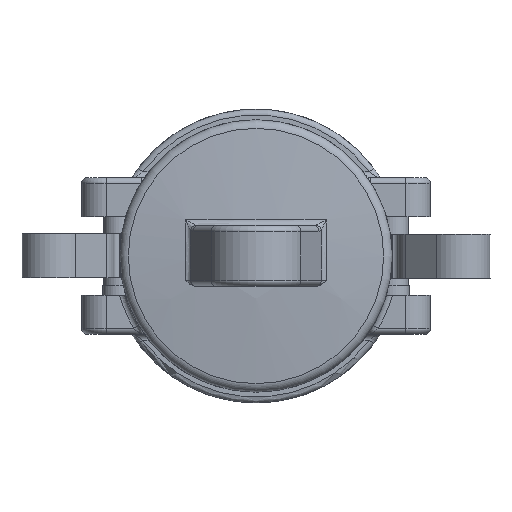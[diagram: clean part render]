
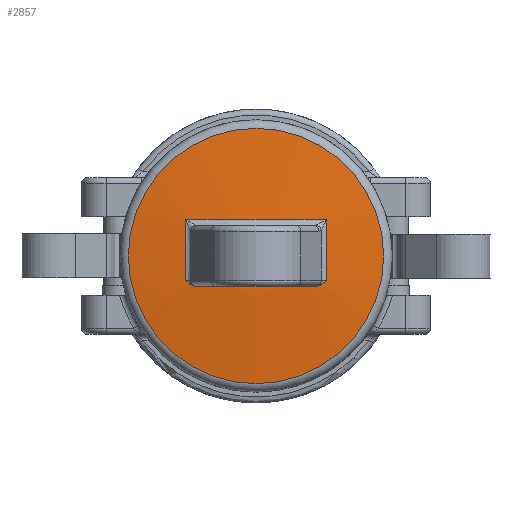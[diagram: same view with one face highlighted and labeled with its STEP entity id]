
A CAD part, left-side view. The second image highlights one B-rep face of the part: STEP entity #2857.
In plain terms, the highlighted spherical face has radius 123.323 mm.
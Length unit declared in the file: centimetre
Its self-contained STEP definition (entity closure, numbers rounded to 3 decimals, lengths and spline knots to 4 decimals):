
#42=SPHERICAL_SURFACE('',#3046,12.3323);
#82=B_SPLINE_CURVE_WITH_KNOTS('',3,(#4413,#4414,#4415,#4416,#4417,#4418,
#4419,#4420,#4421,#4422),.UNSPECIFIED.,.F.,.U.,(4,2,2,2,4),(0.,0.0415,
0.0997,0.1675,0.1682),.UNSPECIFIED.);
#85=B_SPLINE_CURVE_WITH_KNOTS('',3,(#4670,#4671,#4672,#4673,#4674,#4675,
#4676,#4677,#4678,#4679),.UNSPECIFIED.,.F.,.U.,(4,2,2,2,4),(-0.0006,
0.,0.0568,0.1056,0.1403),.UNSPECIFIED.);
#1060=VERTEX_POINT('',#4412);
#1061=VERTEX_POINT('',#4423);
#1066=VERTEX_POINT('',#4669);
#1067=VERTEX_POINT('',#4680);
#1072=VERTEX_POINT('',#4843);
#1078=VERTEX_POINT('',#5094);
#1085=VERTEX_POINT('',#5228);
#1279=CIRCLE('',#3030,10.8923);
#1282=CIRCLE('',#3037,10.8923);
#1283=CIRCLE('',#3039,12.3235);
#1286=CIRCLE('',#3044,1.6553);
#1288=CIRCLE('',#3047,12.326);
#1446=EDGE_CURVE('',#1060,#1061,#82,.F.);
#1453=EDGE_CURVE('',#1066,#1067,#85,.F.);
#1480=EDGE_CURVE('',#1067,#1072,#1279,.T.);
#1485=EDGE_CURVE('',#1078,#1060,#1282,.T.);
#1486=EDGE_CURVE('',#1072,#1078,#1283,.T.);
#1489=EDGE_CURVE('',#1085,#1085,#1286,.T.);
#1491=EDGE_CURVE('',#1066,#1061,#1288,.T.);
#1938=ORIENTED_EDGE('',*,*,#1453,.F.);
#1939=ORIENTED_EDGE('',*,*,#1491,.T.);
#1940=ORIENTED_EDGE('',*,*,#1446,.F.);
#1941=ORIENTED_EDGE('',*,*,#1485,.F.);
#1942=ORIENTED_EDGE('',*,*,#1486,.F.);
#1943=ORIENTED_EDGE('',*,*,#1480,.F.);
#1944=ORIENTED_EDGE('',*,*,#1489,.F.);
#2501=EDGE_LOOP('',(#1938,#1939,#1940,#1941,#1942,#1943));
#2502=EDGE_LOOP('',(#1944));
#2688=FACE_BOUND('',#2501,.T.);
#2689=FACE_BOUND('',#2502,.T.);
#2857=ADVANCED_FACE('',(#2688,#2689),#42,.T.);
#3030=AXIS2_PLACEMENT_3D('',#5210,#3413,#3414);
#3037=AXIS2_PLACEMENT_3D('',#5219,#3426,#3427);
#3039=AXIS2_PLACEMENT_3D('',#5221,#3429,#3430);
#3044=AXIS2_PLACEMENT_3D('',#5227,#3437,#3438);
#3046=AXIS2_PLACEMENT_3D('',#5231,#3441,#3442);
#3047=AXIS2_PLACEMENT_3D('',#5232,#3443,#3444);
#3413=DIRECTION('',(0.403,0.915,0.));
#3414=DIRECTION('',(-9.971,4.385,0.));
#3426=DIRECTION('',(0.403,-0.915,0.));
#3427=DIRECTION('',(-9.971,-4.385,0.));
#3429=DIRECTION('',(0.,0.,-1.));
#3430=DIRECTION('',(-12.323,0.,0.));
#3437=DIRECTION('',(1.,0.,0.));
#3438=DIRECTION('',(0.,0.,1.655));
#3441=DIRECTION('',(0.,0.,1.));
#3442=DIRECTION('',(1.,0.,0.));
#3443=DIRECTION('',(0.,0.,-1.));
#3444=DIRECTION('',(0.,-12.326,0.));
#4412=CARTESIAN_POINT('',(-3.4166,0.9109,-0.3195));
#4413=CARTESIAN_POINT('',(-3.4234,0.7808,-0.3937));
#4414=CARTESIAN_POINT('',(-3.4225,0.7946,-0.3937));
#4415=CARTESIAN_POINT('',(-3.4217,0.8082,-0.3909));
#4416=CARTESIAN_POINT('',(-3.42,0.8395,-0.3793));
#4417=CARTESIAN_POINT('',(-3.4192,0.8552,-0.369));
#4418=CARTESIAN_POINT('',(-3.4178,0.8835,-0.3469));
#4419=CARTESIAN_POINT('',(-3.4172,0.8972,-0.3333));
#4420=CARTESIAN_POINT('',(-3.4166,0.9107,-0.3197));
#4421=CARTESIAN_POINT('',(-3.4166,0.9108,-0.3196));
#4422=CARTESIAN_POINT('',(-3.4166,0.9109,-0.3195));
#4423=CARTESIAN_POINT('',(-3.4234,0.7808,-0.3937));
#4669=CARTESIAN_POINT('',(-3.4234,-0.7808,-0.3937));
#4670=CARTESIAN_POINT('',(-3.4166,-0.9109,-0.3195));
#4671=CARTESIAN_POINT('',(-3.4166,-0.9108,-0.3196));
#4672=CARTESIAN_POINT('',(-3.4166,-0.9107,-0.3197));
#4673=CARTESIAN_POINT('',(-3.4172,-0.8972,-0.3333));
#4674=CARTESIAN_POINT('',(-3.4178,-0.8835,-0.3469));
#4675=CARTESIAN_POINT('',(-3.4192,-0.8552,-0.369));
#4676=CARTESIAN_POINT('',(-3.42,-0.8395,-0.3793));
#4677=CARTESIAN_POINT('',(-3.4217,-0.8082,-0.3909));
#4678=CARTESIAN_POINT('',(-3.4225,-0.7946,-0.3937));
#4679=CARTESIAN_POINT('',(-3.4234,-0.7808,-0.3937));
#4680=CARTESIAN_POINT('',(-3.4166,-0.9109,-0.3195));
#4843=CARTESIAN_POINT('',(-3.4117,-0.9131,0.467));
#5094=CARTESIAN_POINT('',(-3.4117,0.9131,0.467));
#5210=CARTESIAN_POINT('',(6.5498,-5.2939,0.));
#5219=CARTESIAN_POINT('',(6.5498,5.2939,0.));
#5221=CARTESIAN_POINT('',(8.8779,0.,0.467));
#5227=CARTESIAN_POINT('',(-3.3428,0.,0.));
#5228=CARTESIAN_POINT('',(-3.3428,0.,-1.6553));
#5231=CARTESIAN_POINT('',(8.8779,0.,0.));
#5232=CARTESIAN_POINT('',(8.8779,0.,-0.3937));
